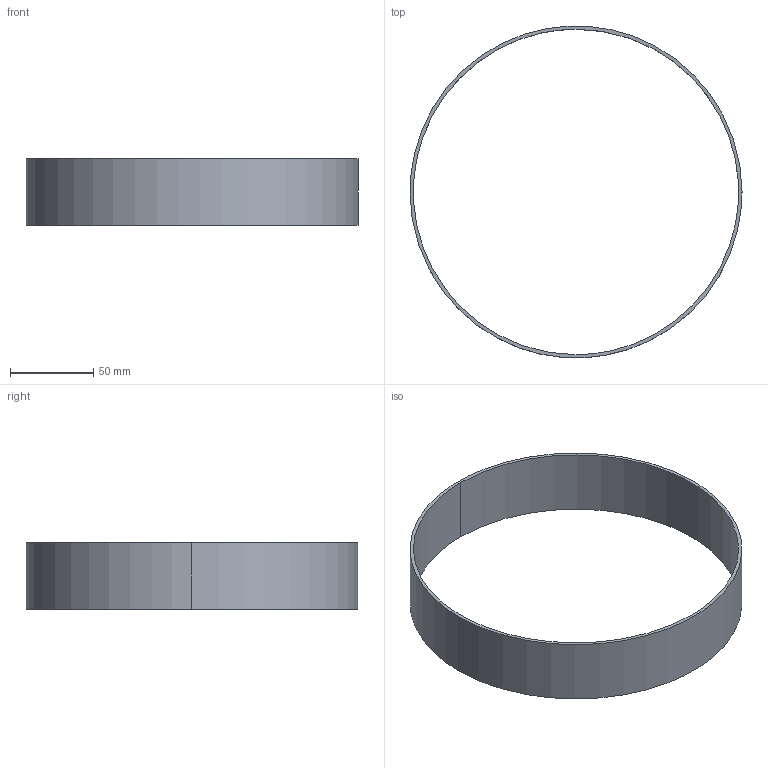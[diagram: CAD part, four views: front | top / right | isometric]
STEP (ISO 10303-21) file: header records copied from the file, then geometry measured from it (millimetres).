
FILE_DESCRIPTION(/* description */ (''),/* implementation_level */ '2;1');
FILE_NAME(/* name */ 'TEST2~1',/* time_stamp */ '2019-11-27T20:11:00-07:00',/* author */ (''),/* organization */ (''),/* preprocessor_version */ 'ST-DEVELOPER v15',/* originating_system */ '',/* authorisation */ '');
FILE_SCHEMA (('AUTOMOTIVE_DESIGN'));
Length unit declared in the file: millimetre
Products named in the file (1): Document
Bounding box: 200 x 199.77 x 40 mm (x, y, z)
Volume: 48564.7 mm3; surface area: 52134.4 mm2
Topology: 1 solids, 1 shells, 6 faces, 12 edges, 8 vertices
Faces by surface type: bspline 4, plane 2
Entity records: 210 total; most frequent: CARTESIAN_POINT 100, ORIENTED_EDGE 24, EDGE_CURVE 12, EDGE_LOOP 8, VERTEX_POINT 8, ADVANCED_FACE 6, FACE_OUTER_BOUND 6, DIRECTION 6
